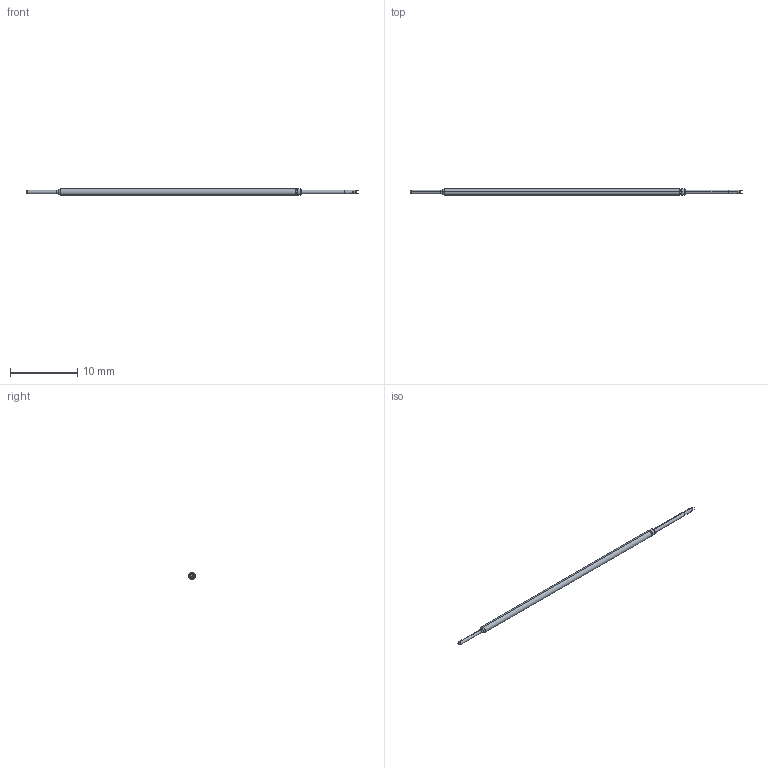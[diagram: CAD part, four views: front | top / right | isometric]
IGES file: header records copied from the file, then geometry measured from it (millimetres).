
Start section: SolidWorks IGES file using analytic representation for surfaces
Global section: file name: C:\Documents and Settings\mrumschlag\Desktop\changes\new\test\L18.IGS; native system: SolidWorks 2011; preprocessor: SolidWorks 2011; author: mrumschlag; date: 110630.142311; units: inch
Bounding box: 49.28 x 0.97 x 0.97 mm (x, y, z)
Surface area: 132.6 mm2 (no closed solid volume)
Topology: 0 solids, 0 shells, 33 faces, 186 edges, 184 vertices
Faces by surface type: bspline 17, revolution 16
